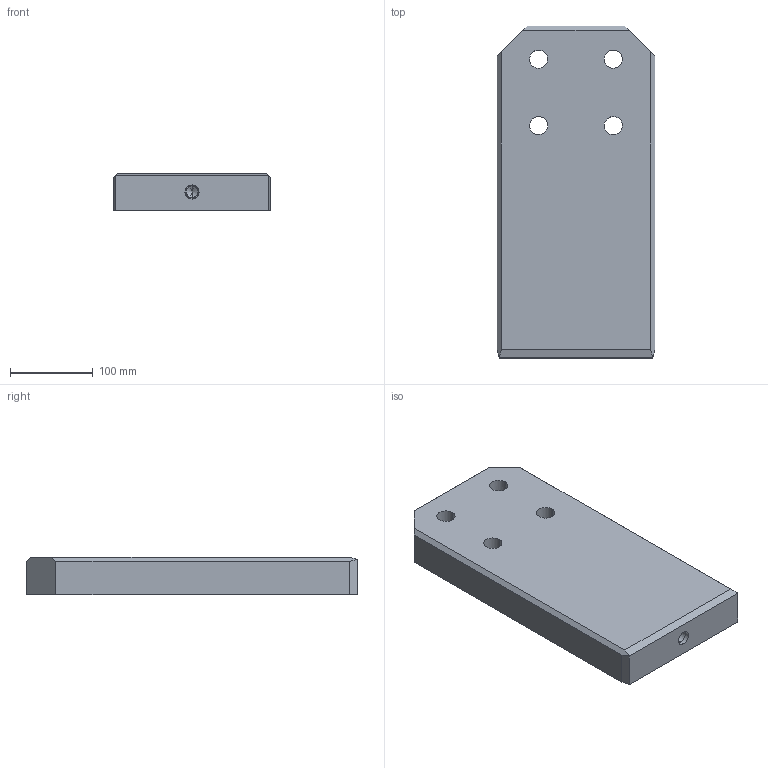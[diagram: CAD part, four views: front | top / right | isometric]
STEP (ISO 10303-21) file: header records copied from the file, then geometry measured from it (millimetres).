
FILE_DESCRIPTION(('CATIA V5 STEP Exchange'),'2;1');
FILE_NAME('C:\Users\borellobunino\Desktop\3D X SITO CF\A927\GSB_OILLESS_G2290519040045\STEP-2.03\A927-190X400X45.stp','2019-07-15T19:55:36+00:00',('none'),('none'),'CATIA Version 5 Release 20 GA (IN-10)','CATIA V5 STEP AP203','none');
FILE_SCHEMA(('CONFIG_CONTROL_DESIGN'));
Length unit declared in the file: millimetre
Products named in the file (1): A927-190X400X45
Bounding box: 190 x 400 x 45 mm (x, y, z)
Volume: 3220964.4 mm3; surface area: 212070 mm2
Topology: 1 solids, 1 shells, 52 faces, 134 edges, 89 vertices
Faces by surface type: cylinder 22, plane 20, cone 10
Entity records: 2048 total; most frequent: CARTESIAN_POINT 784, ORIENTED_EDGE 264, DIRECTION 206, EDGE_CURVE 132, VERTEX_POINT 89, AXIS2_PLACEMENT_3D 87, VECTOR 68, LINE 68
